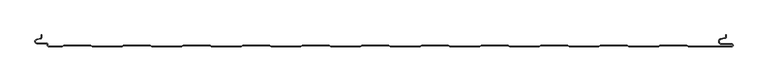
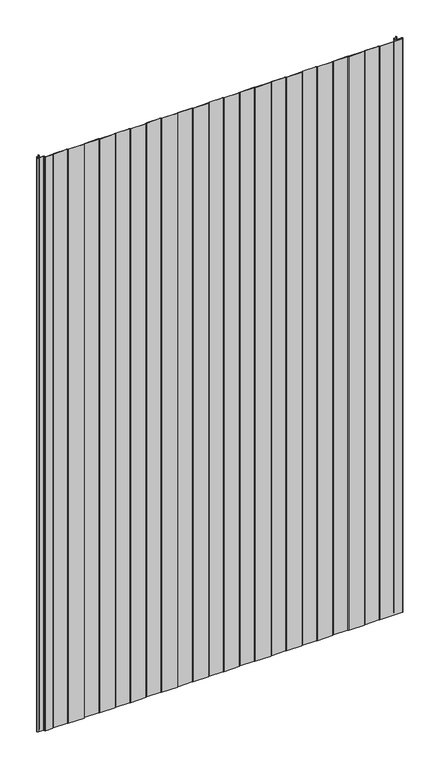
"""IFC4 building model written with IfcOpenShell, lengths in millimetres: plate geometry, PM1_Curtain-Panel_Perfil-Estándar : ACH_PM1_Panel-Acústico-Sectorización_80M."""

import ifcopenshell
import ifcopenshell.guid

model = None  # the IFC model being written
_history = None  # IfcOwnerHistory: only IFC2X3 demands one
_inside = {}  # id of a spatial element -> (the spatial element, [elements in it])
_under = {}  # id of a project, library or spatial element -> (it, [spatial elements below it])
_declared = {}  # id of a project -> (the project, [libraries it declares])
_typed = {}  # id of a type object -> (the type object, [elements of that type])
_made_of = {}  # id of a material, layer set ... -> (it, [elements and type objects made of it])


def new_model(schema):
    """Start an empty IFC model of exactly this schema.

    Asked for "IFC4X3", IfcOpenShell would pick the latest addendum, in which some entities
    have other attributes; the version numbers below select the first issue.
    IFC2X3 requires an IfcOwnerHistory on every rooted entity: one is made here for all.
    """
    global model, _history
    if schema == "IFC4X3":
        model = ifcopenshell.file(schema_version=(4, 3, 0, 0))
    else:
        model = ifcopenshell.file(schema=schema)
    _inside.clear()
    _under.clear()
    _declared.clear()
    _typed.clear()
    _made_of.clear()
    _history = None
    if model.schema == "IFC2X3":
        org = make("IfcOrganization", Name="unknown")
        user = make(
            "IfcPersonAndOrganization",
            ThePerson=make("IfcPerson", FamilyName="unknown"),
            TheOrganization=org,
        )
        app = make(
            "IfcApplication",
            ApplicationDeveloper=org,
            Version="unknown",
            ApplicationFullName="unknown",
            ApplicationIdentifier="unknown",
        )
        _history = make(
            "IfcOwnerHistory",
            OwningUser=user,
            OwningApplication=app,
            ChangeAction="ADDED",
            CreationDate=0,
        )
    return model


def make(cls, **values):
    """One entity of the class cls with the attributes given. An attribute that is None is left unset."""
    return model.create_entity(
        cls, **{name: value for name, value in values.items() if value is not None}
    )


def rooted(cls, **values):
    """An entity with a GlobalId (a new one), such as an element, a storey or a relation."""
    return make(cls, GlobalId=ifcopenshell.guid.new(), OwnerHistory=_history, **values)


def si_unit(unit_type, name, prefix=None):
    """IfcSIUnit, for example si_unit("LENGTHUNIT", "METRE", prefix="MILLI")."""
    return make("IfcSIUnit", UnitType=unit_type, Prefix=prefix, Name=name)


def assignment(units):
    """IfcUnitAssignment: the units of a project."""
    return None if units is None else make("IfcUnitAssignment", Units=units)


def point(xyz):
    """IfcCartesianPoint."""
    return None if xyz is None else make("IfcCartesianPoint", Coordinates=xyz)


def direction(xyz):
    """IfcDirection."""
    return None if xyz is None else make("IfcDirection", DirectionRatios=xyz)


def frame(location, z_axis=None, x_axis=None):
    """IfcAxis2Placement3D, a coordinate frame: its origin and axes. An axis left out is left unset."""
    return make(
        "IfcAxis2Placement3D",
        Location=point(location),
        Axis=direction(z_axis),
        RefDirection=direction(x_axis),
    )


def origin():
    """The frame at (0, 0, 0) with its axes left unset."""
    return frame((0.0, 0.0, 0.0))


def place(relative_to, where):
    """IfcLocalPlacement: puts the frame where relative to a parent placement (None: the world)."""
    return make(
        "IfcLocalPlacement", PlacementRelTo=relative_to, RelativePlacement=where
    )


def context(
    kind, dimensions, precision=None, world=None, true_north=None, identifier=None
):
    """IfcGeometricRepresentationContext, for example the 3D "Model" context."""
    return make(
        "IfcGeometricRepresentationContext",
        ContextIdentifier=identifier,
        ContextType=kind,
        CoordinateSpaceDimension=dimensions,
        Precision=precision,
        WorldCoordinateSystem=world,
        TrueNorth=true_north,
    )


def project(units=None, contexts=None):
    """IfcProject with its units and contexts."""
    return rooted(
        "IfcProject",
        Name="project",
        RepresentationContexts=contexts,
        UnitsInContext=assignment(units),
    )


def spatial(cls, under=None, at=None, **own):
    """A site, building, storey or space (cls), placed at a placement, below another one or the project."""
    s = rooted(cls, ObjectPlacement=at, **own)
    if under is not None:
        _under.setdefault(under.id(), (under, []))[1].append(s)
    return s


def polyline(points):
    """IfcPolyline through the points."""
    return make("IfcPolyline", Points=[point(p) for p in points])


def circle_curve(where, radius):
    """IfcCircle in the frame where."""
    return make("IfcCircle", Position=where, Radius=radius)


def shape(context_of_items, identifier, shape_type, items):
    """IfcShapeRepresentation: the items that make up one representation, for example the "Body"."""
    return make(
        "IfcShapeRepresentation",
        ContextOfItems=context_of_items,
        RepresentationIdentifier=identifier,
        RepresentationType=shape_type,
        Items=items,
    )


def source(mapping_origin, context_of_items, identifier, shape_type, items):
    """IfcRepresentationMap: a shape defined once, which mapped items show again and again."""
    return make(
        "IfcRepresentationMap",
        MappingOrigin=mapping_origin,
        MappedRepresentation=shape(context_of_items, identifier, shape_type, items),
    )


def transform(
    local_origin,
    x_axis=None,
    y_axis=None,
    z_axis=None,
    scale=None,
    scale2=None,
    scale3=None,
    uniform=True,
):
    """IfcCartesianTransformationOperator3D, or its non-uniform kind. x_axis, y_axis, z_axis: its Axis1, 2, 3."""
    if uniform:
        return make(
            "IfcCartesianTransformationOperator3D",
            Axis1=direction(x_axis),
            Axis2=direction(y_axis),
            LocalOrigin=point(local_origin),
            Scale=scale,
            Axis3=direction(z_axis),
        )
    return make(
        "IfcCartesianTransformationOperator3DnonUniform",
        Axis1=direction(x_axis),
        Axis2=direction(y_axis),
        LocalOrigin=point(local_origin),
        Scale=scale,
        Axis3=direction(z_axis),
        Scale2=scale2,
        Scale3=scale3,
    )


def mapped(mapping_source, mapping_target):
    """IfcMappedItem: shows the shape of a source again, moved by a transform."""
    return make(
        "IfcMappedItem", MappingSource=mapping_source, MappingTarget=mapping_target
    )


def made_of(thing, what):
    """Note that an element or type object is made of a material, layer set ...; save() writes the relation."""
    if what is not None:
        _made_of.setdefault(what.id(), (what, []))[1].append(thing)
    return thing


def element(
    cls,
    number,
    at=None,
    inside=None,
    cuts=None,
    type_object=None,
    material=None,
    context=None,
    identifier="Body",
    shape_type=None,
    held_by="IfcProductDefinitionShape",
    body=None,
    shapes=None,
    **own,
):
    """One element of the class cls, such as IfcWall. Its Tag is "e" and its number.

    at: its placement. inside: the storey or other place that contains it. cuts: it is an
    opening in that element (IfcRelVoidsElement). A single representation is given by context,
    identifier, shape_type and body (its items); several are given by shapes. held_by: the class
    of the entity that holds the representations. save() writes the other relations.
    """
    e = rooted(cls, Tag="e%d" % number, ObjectPlacement=at, **own)
    if body is not None:
        shapes = [shape(context, identifier, shape_type, body)]
    if shapes is not None:
        e.Representation = make(held_by, Representations=shapes)
    if inside is not None:
        _inside.setdefault(inside.id(), (inside, []))[1].append(e)
    if cuts is not None:
        rooted(
            "IfcRelVoidsElement", RelatingBuildingElement=cuts, RelatedOpeningElement=e
        )
    if type_object is not None:
        _typed.setdefault(type_object.id(), (type_object, []))[1].append(e)
    return made_of(e, material)


def aggregate(whole, parts):
    """IfcRelAggregates: a whole, such as a stair, and the parts it consists of."""
    return rooted("IfcRelAggregates", RelatingObject=whole, RelatedObjects=parts)


def save(model, path):
    """Write the relations noted so far, then the file.

    IfcRelAggregates (storeys below a building ...), IfcRelContainedInSpatialStructure (elements
    in a storey), IfcRelDefinesByType, IfcRelAssociatesMaterial and IfcRelDeclares: one each for
    every whole, place, type object, material and project.
    """
    for whole, parts in _under.values():
        aggregate(whole, parts)
    for where, things in _inside.values():
        rooted(
            "IfcRelContainedInSpatialStructure",
            RelatedElements=things,
            RelatingStructure=where,
        )
    for kind, things in _typed.values():
        rooted("IfcRelDefinesByType", RelatedObjects=things, RelatingType=kind)
    for what, things in _made_of.values():
        rooted("IfcRelAssociatesMaterial", RelatedObjects=things, RelatingMaterial=what)
    for by, libraries in _declared.values():
        rooted("IfcRelDeclares", RelatingContext=by, RelatedDefinitions=libraries)
    model.write(path)


def plane_surface(at):
    """IfcPlane: the flat surface through the origin of the frame at, square to its z axis."""
    return make("IfcPlane", Position=at)


def cylinder_surface(at, radius):
    """IfcCylindricalSurface: all points at the distance radius from the z axis of the frame at."""
    return make("IfcCylindricalSurface", Position=at, Radius=radius)


def revolved_surface(curve, axis_point, axis_direction):
    """IfcSurfaceOfRevolution: the curve turned about the line through axis_point along axis_direction."""
    return make(
        "IfcSurfaceOfRevolution",
        SweptCurve=make("IfcArbitraryOpenProfileDef", ProfileType="CURVE", Curve=curve),
        AxisPosition=make("IfcAxis1Placement", Location=point(axis_point), Axis=direction(axis_direction)),
    )


def advanced_brep(points, edges, surfaces, faces):
    """IfcAdvancedBrep: a solid bounded by faces that lie on surfaces and meet in shared edges.

    An edge is (start, end): straight between two places in points (the first is 0);
    or (start, end, curve); or (start, end, curve, False) where it runs against its curve.
    A face is (place in surfaces, loops), or (place, loops, False) where it looks against
    its surface's normal. A loop lists edges by number (the first is 1), with a minus sign
    where the edge is run from its end to its start. The first loop is the outer one.
    """
    corners = [point(p) for p in points]
    vertices = [make("IfcVertexPoint", VertexGeometry=c) for c in corners]
    made = []
    for start, end, *more in edges:
        made.append(
            make(
                "IfcEdgeCurve",
                EdgeStart=vertices[start],
                EdgeEnd=vertices[end],
                EdgeGeometry=more[0] if more else make("IfcPolyline", Points=[corners[start], corners[end]]),
                SameSense=more[1] if len(more) > 1 else True,
            )
        )
    hull = []
    for where, loops, *sense in faces:
        bounds = []
        for j, loop in enumerate(loops):
            ring = [make("IfcOrientedEdge", EdgeElement=made[abs(k) - 1], Orientation=k > 0) for k in loop]
            bounds.append(
                make(
                    "IfcFaceOuterBound" if j == 0 else "IfcFaceBound",
                    Bound=make("IfcEdgeLoop", EdgeList=ring),
                    Orientation=True,
                )
            )
        hull.append(make("IfcAdvancedFace", Bounds=bounds, FaceSurface=surfaces[where], SameSense=sense[0] if sense else True))
    return make("IfcAdvancedBrep", Outer=make("IfcClosedShell", CfsFaces=hull))


def plate_d2d6d263(model_context):
    return source(origin(), model_context, "Body", "AdvancedBrep", [
        advanced_brep(
        [(-562.4, -80.0, 1945.7507136), (-539.3999999, -80.0, 1945.7507136), (-536.8019223, -78.5, 1945.7507136), (-492.0019247, -78.5, 1945.7507136), (-489.4038471, -80.0, 1945.7507136), (-439.3999999, -80.0, 1945.7507136), (-436.8019223, -78.5, 1945.7507136), (-392.0019247, -78.5, 1945.7507136), (-389.4038471, -80.0, 1945.7507136), (-339.3999999, -80.0, 1945.7507136), (-336.8019223, -78.5, 1945.7507136), (-292.0019247, -78.5, 1945.7507136), (-289.4038471, -80.0, 1945.7507136), (-239.3999999, -80.0, 1945.7507136), (-236.8019223, -78.5, 1945.7507136), (-192.0019247, -78.5, 1945.7507136), (-189.4038471, -80.0, 1945.7507136), (-139.3999999, -80.0, 1945.7507136), (-136.8019223, -78.5, 1945.7507136), (-92.0019247, -78.5, 1945.7507136), (-89.4038471, -80.0, 1945.7507136), (-39.3999999, -80.0, 1945.7507136), (-36.8019223, -78.5, 1945.7507136), (7.9980753, -78.5, 1945.7507136), (10.5961529, -80.0, 1945.7507136), (60.6000001, -80.0, 1945.7507136), (63.1980777, -78.5, 1945.7507136), (107.9980753, -78.5, 1945.7507136), (110.5961529, -80.0, 1945.7507136), (160.6000001, -80.0, 1945.7507136), (163.1980777, -78.5, 1945.7507136), (207.9980753, -78.5, 1945.7507136), (210.5961529, -80.0, 1945.7507136), (260.6000001, -80.0, 1945.7507136), (263.1980777, -78.5, 1945.7507136), (307.9980753, -78.5, 1945.7507136), (310.5961529, -80.0, 1945.7507136), (360.6000001, -80.0, 1945.7507136), (363.1980777, -78.5, 1945.7507136), (407.9980753, -78.5, 1945.7507136), (410.5961529, -80.0, 1945.7507136), (460.6000001, -80.0, 1945.7507136), (463.1980777, -78.5, 1945.7507136), (507.9980753, -78.5, 1945.7507136), (510.5961529, -80.0, 1945.7507136), (583.1, -80.0, 1945.7507136), (585.6, -77.5, 1945.7507136), (583.1, -75.0, 1945.7507136), (566.1, -75.0, 1945.7507136), (565.4054075, -67.060769, 1945.7507136), (571.8514851, -65.924152, 1945.7507136), (574.0, -63.363652, 1945.7507136), (574.0, -60.0, 1945.7507136), (573.2, -60.0, 1945.7507136), (573.2, -63.363652, 1945.7507136), (571.7125666, -65.136306, 1945.7507136), (565.266489, -66.2729229, 1945.7507136), (566.1, -75.8, 1945.7507136), (583.1, -75.8, 1945.7507136), (583.1, -79.2, 1945.7507136), (510.8105122, -79.2, 1945.7507136), (508.2124346, -77.7, 1945.7507136), (462.9837184, -77.7, 1945.7507136), (460.3856408, -79.2, 1945.7507136), (410.8105122, -79.2, 1945.7507136), (408.2124346, -77.7, 1945.7507136), (362.9837184, -77.7, 1945.7507136), (360.3856408, -79.2, 1945.7507136), (310.8105122, -79.2, 1945.7507136), (308.2124346, -77.7, 1945.7507136), (262.9837184, -77.7, 1945.7507136), (260.3856408, -79.2, 1945.7507136), (210.8105122, -79.2, 1945.7507136), (208.2124346, -77.7, 1945.7507136), (162.9837184, -77.7, 1945.7507136), (160.3856408, -79.2, 1945.7507136), (110.8105122, -79.2, 1945.7507136), (108.2124346, -77.7, 1945.7507136), (62.9837184, -77.7, 1945.7507136), (60.3856408, -79.2, 1945.7507136), (10.8105122, -79.2, 1945.7507136), (8.2124346, -77.7, 1945.7507136), (-37.0162816, -77.7, 1945.7507136), (-39.6143592, -79.2, 1945.7507136), (-89.1894878, -79.2, 1945.7507136), (-91.7875654, -77.7, 1945.7507136), (-137.0162816, -77.7, 1945.7507136), (-139.6143592, -79.2, 1945.7507136), (-189.1894878, -79.2, 1945.7507136), (-191.7875654, -77.7, 1945.7507136), (-237.0162816, -77.7, 1945.7507136), (-239.6143592, -79.2, 1945.7507136), (-289.1894878, -79.2, 1945.7507136), (-291.7875654, -77.7, 1945.7507136), (-337.0162816, -77.7, 1945.7507136), (-339.6143592, -79.2, 1945.7507136), (-389.1894878, -79.2, 1945.7507136), (-391.7875654, -77.7, 1945.7507136), (-437.0162816, -77.7, 1945.7507136), (-439.6143592, -79.2, 1945.7507136), (-489.1894878, -79.2, 1945.7507136), (-491.7875654, -77.7, 1945.7507136), (-537.0162816, -77.7, 1945.7507136), (-539.6143592, -79.2, 1945.7507136), (-562.4, -79.2, 1945.7507136), (-563.6, -78.0, 1945.7507136), (-563.6, -76.6, 1945.7507136), (-566.4, -73.8, 1945.7507136), (-581.9, -73.8, 1945.7507136), (-582.529863, -68.2717638, 1945.7507136), (-576.370137, -66.849679, 1945.7507136), (-574.2, -64.121443, 1945.7507136), (-574.2, -60.0, 1945.7507136), (-575.0, -60.0, 1945.7507136), (-575.0, -64.121443, 1945.7507136), (-576.5500978, -66.0701831, 1945.7507136), (-582.7098239, -67.492268, 1945.7507136), (-581.9, -74.6, 1945.7507136), (-566.4, -74.6, 1945.7507136), (-564.4, -76.6, 1945.7507136), (-564.4, -78.0, 1945.7507136), (-562.4, -80.0, 0.0), (-564.4, -78.0, 0.0), (-564.4, -76.6, 0.0), (-566.4, -74.6, 0.0), (-581.9, -74.6, 0.0), (-582.7098239, -67.4922678, 0.0), (-576.5500979, -66.070183, 0.0), (-575.0, -64.121443, 0.0), (-575.0, -60.0, 0.0), (-574.2, -60.0, 0.0), (-574.2, -64.121443, 0.0), (-576.370137, -66.8496792, 0.0), (-582.529863, -68.271764, 0.0), (-581.9, -73.8, 0.0), (-566.4, -73.8, 0.0), (-563.6, -76.6, 0.0), (-563.6, -78.0, 0.0), (-562.4, -79.2, 0.0), (-539.6143592, -79.2, 0.0), (-537.0162816, -77.7, 0.0), (-491.7875654, -77.7, 0.0), (-489.1894878, -79.2, 0.0), (-439.6143592, -79.2, 0.0), (-437.0162816, -77.7, 0.0), (-391.7875654, -77.7, 0.0), (-389.1894878, -79.2, 0.0), (-339.6143592, -79.2, 0.0), (-337.0162816, -77.7, 0.0), (-291.7875654, -77.7, 0.0), (-289.1894878, -79.2, 0.0), (-239.6143592, -79.2, 0.0), (-237.0162816, -77.7, 0.0), (-191.7875654, -77.7, 0.0), (-189.1894878, -79.2, 0.0), (-139.6143592, -79.2, 0.0), (-137.0162816, -77.7, 0.0), (-91.7875654, -77.7, 0.0), (-89.1894878, -79.2, 0.0), (-39.6143592, -79.2, 0.0), (-37.0162816, -77.7, 0.0), (8.2124346, -77.7, 0.0), (10.8105122, -79.2, 0.0), (60.3856408, -79.2, 0.0), (62.9837184, -77.7, 0.0), (108.2124346, -77.7, 0.0), (110.8105122, -79.2, 0.0), (160.3856408, -79.2, 0.0), (162.9837184, -77.7, 0.0), (208.2124346, -77.7, 0.0), (210.8105122, -79.2, 0.0), (260.3856408, -79.2, 0.0), (262.9837184, -77.7, 0.0), (308.2124346, -77.7, 0.0), (310.8105122, -79.2, 0.0), (360.3856408, -79.2, 0.0), (362.9837184, -77.7, 0.0), (408.2124346, -77.7, 0.0), (410.8105122, -79.2, 0.0), (460.3856408, -79.2, 0.0), (462.9837184, -77.7, 0.0), (508.2124346, -77.7, 0.0), (510.8105122, -79.2, 0.0), (583.1, -79.2, 0.0), (583.1, -75.8, 0.0), (566.1, -75.8, 0.0), (565.266489, -66.2729227, 0.0), (571.7125666, -65.1363058, 0.0), (573.2, -63.363652, 0.0), (573.2, -60.0, 0.0), (574.0, -60.0, 0.0), (574.0, -63.363652, 0.0), (571.8514851, -65.9241522, 0.0), (565.4054075, -67.0607691, 0.0), (566.1, -75.0, 0.0), (583.1, -75.0, 0.0), (585.6, -77.5, 0.0), (583.1, -80.0, 0.0), (510.5961529, -80.0, 0.0), (507.9980753, -78.5, 0.0), (463.1980777, -78.5, 0.0), (460.6000001, -80.0, 0.0), (410.5961529, -80.0, 0.0), (407.9980753, -78.5, 0.0), (363.1980777, -78.5, 0.0), (360.6000001, -80.0, 0.0), (310.5961529, -80.0, 0.0), (307.9980753, -78.5, 0.0), (263.1980777, -78.5, 0.0), (260.6000001, -80.0, 0.0), (210.5961529, -80.0, 0.0), (207.9980753, -78.5, 0.0), (163.1980777, -78.5, 0.0), (160.6000001, -80.0, 0.0), (110.5961529, -80.0, 0.0), (107.9980753, -78.5, 0.0), (63.1980777, -78.5, 0.0), (60.6000001, -80.0, 0.0), (10.5961529, -80.0, 0.0), (7.9980753, -78.5, 0.0), (-36.8019223, -78.5, 0.0), (-39.3999999, -80.0, 0.0), (-89.4038471, -80.0, 0.0), (-92.0019247, -78.5, 0.0), (-136.8019223, -78.5, 0.0), (-139.3999999, -80.0, 0.0), (-189.4038471, -80.0, 0.0), (-192.0019247, -78.5, 0.0), (-236.8019223, -78.5, 0.0), (-239.3999999, -80.0, 0.0), (-289.4038471, -80.0, 0.0), (-292.0019247, -78.5, 0.0), (-336.8019223, -78.5, 0.0), (-339.3999999, -80.0, 0.0), (-389.4038471, -80.0, 0.0), (-392.0019247, -78.5, 0.0), (-436.8019223, -78.5, 0.0), (-439.3999999, -80.0, 0.0), (-489.4038471, -80.0, 0.0), (-492.0019247, -78.5, 0.0), (-536.8019223, -78.5, 0.0), (-539.3999999, -80.0, 0.0)],
        [
            (0, 1),
            (1, 2),
            (2, 3),
            (3, 4),
            (4, 5),
            (5, 6),
            (6, 7),
            (7, 8),
            (8, 9),
            (9, 10),
            (10, 11),
            (11, 12),
            (12, 13),
            (13, 14),
            (14, 15),
            (15, 16),
            (16, 17),
            (17, 18),
            (18, 19),
            (19, 20),
            (20, 21),
            (21, 22),
            (22, 23),
            (23, 24),
            (24, 25),
            (25, 26),
            (26, 27),
            (27, 28),
            (28, 29),
            (29, 30),
            (30, 31),
            (31, 32),
            (32, 33),
            (33, 34),
            (34, 35),
            (35, 36),
            (36, 37),
            (37, 38),
            (38, 39),
            (39, 40),
            (40, 41),
            (41, 42),
            (42, 43),
            (43, 44),
            (44, 45),
            (45, 46, circle_curve(frame((583.1, -77.5, 1945.7507136), z_axis=(0.0, 0.0, 1.0), x_axis=(1.0, 0.0, 0.0)), 2.5)),
            (46, 47, circle_curve(frame((583.1, -77.5, 1945.7507136), z_axis=(0.0, 0.0, 1.0), x_axis=(1.0, 0.0, 0.0)), 2.5)),
            (47, 48),
            (48, 49, circle_curve(frame((566.1, -71.0, 1945.7507136), z_axis=(0.0, 0.0, -1.0), x_axis=(1.0, 0.0, 0.0)), 4.0)),
            (49, 50),
            (50, 51, circle_curve(frame((571.4, -63.363652, 1945.7507136), z_axis=(0.0, 0.0, 1.0), x_axis=(1.0, 0.0, 0.0)), 2.6)),
            (51, 52),
            (52, 53),
            (53, 54),
            (54, 55, circle_curve(frame((571.4, -63.363652, 1945.7507136), z_axis=(0.0, 0.0, -1.0), x_axis=(1.0, 0.0, 0.0)), 1.8)),
            (55, 56),
            (56, 57, circle_curve(frame((566.1, -71.0, 1945.7507136), z_axis=(0.0, 0.0, 1.0), x_axis=(1.0, 0.0, 0.0)), 4.8)),
            (57, 58),
            (58, 59, circle_curve(frame((583.1, -77.5, 1945.7507136), z_axis=(0.0, 0.0, -1.0), x_axis=(1.0, 0.0, 0.0)), 1.7)),
            (59, 60),
            (60, 61),
            (61, 62),
            (62, 63),
            (63, 64),
            (64, 65),
            (65, 66),
            (66, 67),
            (67, 68),
            (68, 69),
            (69, 70),
            (70, 71),
            (71, 72),
            (72, 73),
            (73, 74),
            (74, 75),
            (75, 76),
            (76, 77),
            (77, 78),
            (78, 79),
            (79, 80),
            (80, 81),
            (81, 82),
            (82, 83),
            (83, 84),
            (84, 85),
            (85, 86),
            (86, 87),
            (87, 88),
            (88, 89),
            (89, 90),
            (90, 91),
            (91, 92),
            (92, 93),
            (93, 94),
            (94, 95),
            (95, 96),
            (96, 97),
            (97, 98),
            (98, 99),
            (99, 100),
            (100, 101),
            (101, 102),
            (102, 103),
            (103, 104),
            (104, 105, circle_curve(frame((-562.4, -78.0, 1945.7507136), z_axis=(0.0, 0.0, -1.0), x_axis=(1.0, 0.0, 0.0)), 1.2)),
            (105, 106),
            (106, 107, circle_curve(frame((-566.4, -76.6, 1945.7507136), z_axis=(0.0, 0.0, 1.0), x_axis=(1.0, 0.0, 0.0)), 2.8)),
            (107, 108),
            (108, 109, circle_curve(frame((-581.9, -71.0, 1945.7507136), z_axis=(0.0, 0.0, -1.0), x_axis=(1.0, 0.0, 0.0)), 2.8)),
            (109, 110),
            (110, 111, circle_curve(frame((-577.0, -64.121443, 1945.7507136), z_axis=(0.0, 0.0, 1.0), x_axis=(1.0, 0.0, 0.0)), 2.8)),
            (111, 112),
            (112, 113),
            (113, 114),
            (114, 115, circle_curve(frame((-577.0, -64.121443, 1945.7507136), z_axis=(0.0, 0.0, -1.0), x_axis=(1.0, 0.0, 0.0)), 2.0)),
            (115, 116),
            (116, 117, circle_curve(frame((-581.9, -71.0, 1945.7507136), z_axis=(0.0, 0.0, 1.0), x_axis=(1.0, 0.0, 0.0)), 3.6)),
            (117, 118),
            (118, 119, circle_curve(frame((-566.4, -76.6, 1945.7507136), z_axis=(0.0, 0.0, -1.0), x_axis=(1.0, 0.0, 0.0)), 2.0)),
            (119, 120),
            (120, 0, circle_curve(frame((-562.4, -78.0, 1945.7507136), z_axis=(0.0, 0.0, 1.0), x_axis=(1.0, 0.0, 0.0)), 2.0)),
            (121, 122, circle_curve(frame((-562.4, -78.0, 0.0), z_axis=(0.0, 0.0, -1.0), x_axis=(1.0, 0.0, 0.0)), 2.0)),
            (122, 123),
            (123, 124, circle_curve(frame((-566.4, -76.6, 0.0), z_axis=(0.0, 0.0, 1.0), x_axis=(1.0, 0.0, 0.0)), 2.0)),
            (124, 125),
            (125, 126, circle_curve(frame((-581.9, -71.0, 0.0), z_axis=(0.0, 0.0, -1.0), x_axis=(1.0, 0.0, 0.0)), 3.6)),
            (126, 127),
            (127, 128, circle_curve(frame((-577.0, -64.121443, 0.0), z_axis=(0.0, 0.0, 1.0), x_axis=(1.0, 0.0, 0.0)), 2.0)),
            (128, 129),
            (129, 130),
            (130, 131),
            (131, 132, circle_curve(frame((-577.0, -64.121443, 0.0), z_axis=(0.0, 0.0, -1.0), x_axis=(1.0, 0.0, 0.0)), 2.8)),
            (132, 133),
            (133, 134, circle_curve(frame((-581.9, -71.0, 0.0), z_axis=(0.0, 0.0, 1.0), x_axis=(1.0, 0.0, 0.0)), 2.8)),
            (134, 135),
            (135, 136, circle_curve(frame((-566.4, -76.6, 0.0), z_axis=(0.0, 0.0, -1.0), x_axis=(1.0, 0.0, 0.0)), 2.8)),
            (136, 137),
            (137, 138, circle_curve(frame((-562.4, -78.0, 0.0), z_axis=(0.0, 0.0, 1.0), x_axis=(1.0, 0.0, 0.0)), 1.2)),
            (138, 139),
            (139, 140),
            (140, 141),
            (141, 142),
            (142, 143),
            (143, 144),
            (144, 145),
            (145, 146),
            (146, 147),
            (147, 148),
            (148, 149),
            (149, 150),
            (150, 151),
            (151, 152),
            (152, 153),
            (153, 154),
            (154, 155),
            (155, 156),
            (156, 157),
            (157, 158),
            (158, 159),
            (159, 160),
            (160, 161),
            (161, 162),
            (162, 163),
            (163, 164),
            (164, 165),
            (165, 166),
            (166, 167),
            (167, 168),
            (168, 169),
            (169, 170),
            (170, 171),
            (171, 172),
            (172, 173),
            (173, 174),
            (174, 175),
            (175, 176),
            (176, 177),
            (177, 178),
            (178, 179),
            (179, 180),
            (180, 181),
            (181, 182),
            (182, 183),
            (183, 184, circle_curve(frame((583.1, -77.5, 0.0), z_axis=(0.0, 0.0, 1.0), x_axis=(1.0, 0.0, 0.0)), 1.7)),
            (184, 185),
            (185, 186, circle_curve(frame((566.1, -71.0, 0.0), z_axis=(0.0, 0.0, -1.0), x_axis=(1.0, 0.0, 0.0)), 4.8)),
            (186, 187),
            (187, 188, circle_curve(frame((571.4, -63.363652, 0.0), z_axis=(0.0, 0.0, 1.0), x_axis=(1.0, 0.0, 0.0)), 1.8)),
            (188, 189),
            (189, 190),
            (190, 191),
            (191, 192, circle_curve(frame((571.4, -63.363652, 0.0), z_axis=(0.0, 0.0, -1.0), x_axis=(1.0, 0.0, 0.0)), 2.6)),
            (192, 193),
            (193, 194, circle_curve(frame((566.1, -71.0, 0.0), z_axis=(0.0, 0.0, 1.0), x_axis=(1.0, 0.0, 0.0)), 4.0)),
            (194, 195),
            (195, 196, circle_curve(frame((583.1, -77.5, 0.0), z_axis=(0.0, 0.0, -1.0), x_axis=(1.0, 0.0, 0.0)), 2.5)),
            (196, 197, circle_curve(frame((583.1, -77.5, 0.0), z_axis=(0.0, 0.0, -1.0), x_axis=(1.0, 0.0, 0.0)), 2.5)),
            (197, 198),
            (198, 199),
            (199, 200),
            (200, 201),
            (201, 202),
            (202, 203),
            (203, 204),
            (204, 205),
            (205, 206),
            (206, 207),
            (207, 208),
            (208, 209),
            (209, 210),
            (210, 211),
            (211, 212),
            (212, 213),
            (213, 214),
            (214, 215),
            (215, 216),
            (216, 217),
            (217, 218),
            (218, 219),
            (219, 220),
            (220, 221),
            (221, 222),
            (222, 223),
            (223, 224),
            (224, 225),
            (225, 226),
            (226, 227),
            (227, 228),
            (228, 229),
            (229, 230),
            (230, 231),
            (231, 232),
            (232, 233),
            (233, 234),
            (234, 235),
            (235, 236),
            (236, 237),
            (237, 238),
            (238, 239),
            (239, 240),
            (240, 241),
            (241, 121),
            (0, 121),
            (241, 1),
            (240, 2),
            (239, 3),
            (238, 4),
            (237, 5),
            (236, 6),
            (235, 7),
            (234, 8),
            (233, 9),
            (232, 10),
            (231, 11),
            (230, 12),
            (229, 13),
            (228, 14),
            (227, 15),
            (226, 16),
            (225, 17),
            (224, 18),
            (223, 19),
            (222, 20),
            (221, 21),
            (220, 22),
            (219, 23),
            (218, 24),
            (217, 25),
            (216, 26),
            (215, 27),
            (214, 28),
            (213, 29),
            (212, 30),
            (211, 31),
            (210, 32),
            (209, 33),
            (208, 34),
            (207, 35),
            (206, 36),
            (205, 37),
            (204, 38),
            (203, 39),
            (202, 40),
            (201, 41),
            (200, 42),
            (199, 43),
            (198, 44),
            (197, 45),
            (195, 47),
            (194, 48),
            (193, 49),
            (192, 50),
            (191, 51),
            (190, 52),
            (189, 53),
            (188, 54),
            (187, 55),
            (186, 56),
            (185, 57),
            (184, 58),
            (183, 59),
            (182, 60),
            (181, 61),
            (180, 62),
            (179, 63),
            (178, 64),
            (177, 65),
            (176, 66),
            (175, 67),
            (174, 68),
            (173, 69),
            (172, 70),
            (171, 71),
            (170, 72),
            (169, 73),
            (168, 74),
            (167, 75),
            (166, 76),
            (165, 77),
            (164, 78),
            (163, 79),
            (162, 80),
            (161, 81),
            (160, 82),
            (159, 83),
            (158, 84),
            (157, 85),
            (156, 86),
            (155, 87),
            (154, 88),
            (153, 89),
            (152, 90),
            (151, 91),
            (150, 92),
            (149, 93),
            (148, 94),
            (147, 95),
            (146, 96),
            (145, 97),
            (144, 98),
            (143, 99),
            (142, 100),
            (141, 101),
            (140, 102),
            (139, 103),
            (138, 104),
            (137, 105),
            (136, 106),
            (135, 107),
            (134, 108),
            (133, 109),
            (132, 110),
            (131, 111),
            (130, 112),
            (129, 113),
            (128, 114),
            (127, 115),
            (126, 116),
            (125, 117),
            (124, 118),
            (123, 119),
            (122, 120),
        ],
        [
            plane_surface(frame((-575.0, -80.0, 1945.7507136), z_axis=(0.0, 0.0, 1.0), x_axis=(0.0, 1.0, 0.0))),
            plane_surface(frame((-575.0, -80.0, 0.0), z_axis=(0.0, 0.0, -1.0), x_axis=(0.0, 1.0, 0.0))),
            plane_surface(frame((-562.4, -80.0, 1945.7507136), z_axis=(0.0, -1.0, 0.0), x_axis=(0.0, 0.0, -1.0))),
            plane_surface(frame((-539.3999999, -80.0, 1945.7507136), z_axis=(0.49999979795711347, -0.8660255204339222, 0.0), x_axis=(0.0, 0.0, -1.0))),
            plane_surface(frame((-536.8019223, -78.5, 1945.7507136), z_axis=(0.0, -1.0, 0.0), x_axis=(0.0, 0.0, -1.0))),
            plane_surface(frame((-492.0019247, -78.5, 1945.7507136), z_axis=(-0.49999979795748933, -0.8660255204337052, 0.0), x_axis=(0.0, 0.0, -1.0))),
            plane_surface(frame((-489.4038471, -80.0, 1945.7507136), z_axis=(0.0, -1.0, 0.0), x_axis=(0.0, 0.0, -1.0))),
            plane_surface(frame((-439.3999999, -80.0, 1945.7507136), z_axis=(0.49999979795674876, -0.8660255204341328, 0.0), x_axis=(0.0, 0.0, -1.0))),
            plane_surface(frame((-436.8019223, -78.5, 1945.7507136), z_axis=(0.0, -1.0, 0.0), x_axis=(0.0, 0.0, -1.0))),
            plane_surface(frame((-392.0019247, -78.5, 1945.7507136), z_axis=(-0.4999997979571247, -0.8660255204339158, 0.0), x_axis=(0.0, 0.0, -1.0))),
            plane_surface(frame((-389.4038471, -80.0, 1945.7507136), z_axis=(0.0, -1.0, 0.0), x_axis=(0.0, 0.0, -1.0))),
            plane_surface(frame((-339.3999999, -80.0, 1945.7507136), z_axis=(0.49999979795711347, -0.8660255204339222, 0.0), x_axis=(0.0, 0.0, -1.0))),
            plane_surface(frame((-336.8019223, -78.5, 1945.7507136), z_axis=(0.0, -1.0, 0.0), x_axis=(0.0, 0.0, -1.0))),
            plane_surface(frame((-292.0019247, -78.5, 1945.7507136), z_axis=(-0.4999997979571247, -0.8660255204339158, 0.0), x_axis=(0.0, 0.0, -1.0))),
            plane_surface(frame((-289.4038471, -80.0, 1945.7507136), z_axis=(0.0, -1.0, 0.0), x_axis=(0.0, 0.0, -1.0))),
            plane_surface(frame((-239.3999999, -80.0, 1945.7507136), z_axis=(0.49999979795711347, -0.8660255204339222, 0.0), x_axis=(0.0, 0.0, -1.0))),
            plane_surface(frame((-236.8019223, -78.5, 1945.7507136), z_axis=(0.0, -1.0, 0.0), x_axis=(0.0, 0.0, -1.0))),
            plane_surface(frame((-192.0019247, -78.5, 1945.7507136), z_axis=(-0.49999979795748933, -0.8660255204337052, 0.0), x_axis=(0.0, 0.0, -1.0))),
            plane_surface(frame((-189.4038471, -80.0, 1945.7507136), z_axis=(0.0, -1.0, 0.0), x_axis=(0.0, 0.0, -1.0))),
            plane_surface(frame((-139.3999999, -80.0, 1945.7507136), z_axis=(0.49999979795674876, -0.8660255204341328, 0.0), x_axis=(0.0, 0.0, -1.0))),
            plane_surface(frame((-136.8019223, -78.5, 1945.7507136), z_axis=(0.0, -1.0, 0.0), x_axis=(0.0, 0.0, -1.0))),
            plane_surface(frame((-92.0019247, -78.5, 1945.7507136), z_axis=(-0.4999997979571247, -0.8660255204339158, 0.0), x_axis=(0.0, 0.0, -1.0))),
            plane_surface(frame((-89.4038471, -80.0, 1945.7507136), z_axis=(0.0, -1.0, 0.0), x_axis=(0.0, 0.0, -1.0))),
            plane_surface(frame((-39.3999999, -80.0, 1945.7507136), z_axis=(0.49999979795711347, -0.8660255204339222, 0.0), x_axis=(0.0, 0.0, -1.0))),
            plane_surface(frame((-36.8019223, -78.5, 1945.7507136), z_axis=(0.0, -1.0, 0.0), x_axis=(0.0, 0.0, -1.0))),
            plane_surface(frame((7.9980753, -78.5, 1945.7507136), z_axis=(-0.4999997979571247, -0.8660255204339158, 0.0), x_axis=(0.0, 0.0, -1.0))),
            plane_surface(frame((10.5961529, -80.0, 1945.7507136), z_axis=(0.0, -1.0, 0.0), x_axis=(0.0, 0.0, -1.0))),
            plane_surface(frame((60.6000001, -80.0, 1945.7507136), z_axis=(0.49999979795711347, -0.8660255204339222, 0.0), x_axis=(0.0, 0.0, -1.0))),
            plane_surface(frame((63.1980777, -78.5, 1945.7507136), z_axis=(0.0, -1.0, 0.0), x_axis=(0.0, 0.0, -1.0))),
            plane_surface(frame((107.9980753, -78.5, 1945.7507136), z_axis=(-0.49999979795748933, -0.8660255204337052, 0.0), x_axis=(0.0, 0.0, -1.0))),
            plane_surface(frame((110.5961529, -80.0, 1945.7507136), z_axis=(0.0, -1.0, 0.0), x_axis=(0.0, 0.0, -1.0))),
            plane_surface(frame((160.6000001, -80.0, 1945.7507136), z_axis=(0.49999979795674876, -0.8660255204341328, 0.0), x_axis=(0.0, 0.0, -1.0))),
            plane_surface(frame((163.1980777, -78.5, 1945.7507136), z_axis=(0.0, -1.0, 0.0), x_axis=(0.0, 0.0, -1.0))),
            plane_surface(frame((207.9980753, -78.5, 1945.7507136), z_axis=(-0.4999997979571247, -0.8660255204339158, 0.0), x_axis=(0.0, 0.0, -1.0))),
            plane_surface(frame((210.5961529, -80.0, 1945.7507136), z_axis=(0.0, -1.0, 0.0), x_axis=(0.0, 0.0, -1.0))),
            plane_surface(frame((260.6000001, -80.0, 1945.7507136), z_axis=(0.49999979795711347, -0.8660255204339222, 0.0), x_axis=(0.0, 0.0, -1.0))),
            plane_surface(frame((263.1980777, -78.5, 1945.7507136), z_axis=(0.0, -1.0, 0.0), x_axis=(0.0, 0.0, -1.0))),
            plane_surface(frame((307.9980753, -78.5, 1945.7507136), z_axis=(-0.4999997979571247, -0.8660255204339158, 0.0), x_axis=(0.0, 0.0, -1.0))),
            plane_surface(frame((310.5961529, -80.0, 1945.7507136), z_axis=(0.0, -1.0, 0.0), x_axis=(0.0, 0.0, -1.0))),
            plane_surface(frame((360.6000001, -80.0, 1945.7507136), z_axis=(0.49999979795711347, -0.8660255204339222, 0.0), x_axis=(0.0, 0.0, -1.0))),
            plane_surface(frame((363.1980777, -78.5, 1945.7507136), z_axis=(0.0, -1.0, 0.0), x_axis=(0.0, 0.0, -1.0))),
            plane_surface(frame((407.9980753, -78.5, 1945.7507136), z_axis=(-0.49999979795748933, -0.8660255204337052, 0.0), x_axis=(0.0, 0.0, -1.0))),
            plane_surface(frame((410.5961529, -80.0, 1945.7507136), z_axis=(0.0, -1.0, 0.0), x_axis=(0.0, 0.0, -1.0))),
            plane_surface(frame((460.6000001, -80.0, 1945.7507136), z_axis=(0.49999979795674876, -0.8660255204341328, 0.0), x_axis=(0.0, 0.0, -1.0))),
            plane_surface(frame((463.1980777, -78.5, 1945.7507136), z_axis=(0.0, -1.0, 0.0), x_axis=(0.0, 0.0, -1.0))),
            plane_surface(frame((507.9980753, -78.5, 1945.7507136), z_axis=(-0.4999997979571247, -0.8660255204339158, 0.0), x_axis=(0.0, 0.0, -1.0))),
            plane_surface(frame((560.890897, -80.0, 1945.7507136), z_axis=(0.0, -1.0, 0.0), x_axis=(0.0, 0.0, -1.0))),
            cylinder_surface(frame((583.1, -77.5, 1945.7507136), z_axis=(0.0, 0.0, 1.0), x_axis=(1.0, 0.0, 0.0)), 2.5),
            plane_surface(frame((583.1, -75.0, 1945.7507136), z_axis=(0.0, 1.0, 0.0), x_axis=(0.0, 0.0, -1.0))),
            revolved_surface(polyline([(570.1, -71.0, 0.0), (570.1, -71.0, 1945.7507136)]), (566.1, -71.0, 1945.7507136), (0.0, 0.0, -1.0)),
            plane_surface(frame((565.4054075, -67.0607691, 1945.7507136), z_axis=(0.17364813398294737, -0.9848077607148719, 0.0), x_axis=(0.0, 0.0, -1.0))),
            cylinder_surface(frame((571.4, -63.363652, 1945.7507136), z_axis=(0.0, 0.0, 1.0), x_axis=(1.0, 0.0, 0.0)), 2.6),
            plane_surface(frame((574.0, -63.363652, 1945.7507136), z_axis=(1.0, 0.0, 0.0), x_axis=(0.0, 0.0, -1.0))),
            plane_surface(frame((574.0, -60.0, 1945.7507136), z_axis=(0.0, 1.0, 0.0), x_axis=(0.0, 0.0, -1.0))),
            plane_surface(frame((573.2, -60.0, 1945.7507136), z_axis=(-1.0, 0.0, 0.0), x_axis=(0.0, 0.0, -1.0))),
            revolved_surface(polyline([(573.1999999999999, -63.363652, 0.0), (573.1999999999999, -63.363652, 1945.7507136)]), (571.4, -63.363652, 1945.7507136), (0.0, 0.0, -1.0)),
            plane_surface(frame((571.7125666, -65.1363058, 1945.7507136), z_axis=(-0.17364813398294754, 0.9848077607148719, 0.0), x_axis=(0.0, 0.0, -1.0))),
            cylinder_surface(frame((566.1, -71.0, 1945.7507136), z_axis=(0.0, 0.0, 1.0), x_axis=(1.0, 0.0, 0.0)), 4.8),
            plane_surface(frame((566.1, -75.8, 1945.7507136), z_axis=(0.0, -1.0, 0.0), x_axis=(0.0, 0.0, -1.0))),
            revolved_surface(polyline([(584.8000000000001, -77.5, 0.0), (584.8000000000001, -77.5, 1945.7507136)]), (583.1, -77.5, 1945.7507136), (0.0, 0.0, -1.0)),
            plane_surface(frame((560.890897, -79.2, 1945.7507136), z_axis=(0.0, 1.0, 0.0), x_axis=(0.0, 0.0, -1.0))),
            plane_surface(frame((510.8105122, -79.2, 1945.7507136), z_axis=(0.49999979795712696, 0.8660255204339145, 0.0), x_axis=(0.0, 0.0, -1.0))),
            plane_surface(frame((508.2124346, -77.7, 1945.7507136), z_axis=(0.0, 1.0, 0.0), x_axis=(0.0, 0.0, -1.0))),
            plane_surface(frame((462.9837184, -77.7, 1945.7507136), z_axis=(-0.4999997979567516, 0.8660255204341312, 0.0), x_axis=(0.0, 0.0, -1.0))),
            plane_surface(frame((460.3856408, -79.2, 1945.7507136), z_axis=(0.0, 1.0, 0.0), x_axis=(0.0, 0.0, -1.0))),
            plane_surface(frame((410.8105122, -79.2, 1945.7507136), z_axis=(0.4999997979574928, 0.8660255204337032, 0.0), x_axis=(0.0, 0.0, -1.0))),
            plane_surface(frame((408.2124346, -77.7, 1945.7507136), z_axis=(0.0, 1.0, 0.0), x_axis=(0.0, 0.0, -1.0))),
            plane_surface(frame((362.9837184, -77.7, 1945.7507136), z_axis=(-0.49999979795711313, 0.8660255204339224, 0.0), x_axis=(0.0, 0.0, -1.0))),
            plane_surface(frame((360.3856408, -79.2, 1945.7507136), z_axis=(0.0, 1.0, 0.0), x_axis=(0.0, 0.0, -1.0))),
            plane_surface(frame((310.8105122, -79.2, 1945.7507136), z_axis=(0.4999997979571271, 0.8660255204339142, 0.0), x_axis=(0.0, 0.0, -1.0))),
            plane_surface(frame((308.2124346, -77.7, 1945.7507136), z_axis=(0.0, 1.0, 0.0), x_axis=(0.0, 0.0, -1.0))),
            plane_surface(frame((262.9837184, -77.7, 1945.7507136), z_axis=(-0.49999979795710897, 0.8660255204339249, 0.0), x_axis=(0.0, 0.0, -1.0))),
            plane_surface(frame((260.3856408, -79.2, 1945.7507136), z_axis=(0.0, 1.0, 0.0), x_axis=(0.0, 0.0, -1.0))),
            plane_surface(frame((210.8105122, -79.2, 1945.7507136), z_axis=(0.4999997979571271, 0.8660255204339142, 0.0), x_axis=(0.0, 0.0, -1.0))),
            plane_surface(frame((208.2124346, -77.7, 1945.7507136), z_axis=(0.0, 1.0, 0.0), x_axis=(0.0, 0.0, -1.0))),
            plane_surface(frame((162.9837184, -77.7, 1945.7507136), z_axis=(-0.4999997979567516, 0.8660255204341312, 0.0), x_axis=(0.0, 0.0, -1.0))),
            plane_surface(frame((160.3856408, -79.2, 1945.7507136), z_axis=(0.0, 1.0, 0.0), x_axis=(0.0, 0.0, -1.0))),
            plane_surface(frame((110.8105122, -79.2, 1945.7507136), z_axis=(0.49999979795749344, 0.8660255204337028, 0.0), x_axis=(0.0, 0.0, -1.0))),
            plane_surface(frame((108.2124346, -77.7, 1945.7507136), z_axis=(0.0, 1.0, 0.0), x_axis=(0.0, 0.0, -1.0))),
            plane_surface(frame((62.9837184, -77.7, 1945.7507136), z_axis=(-0.49999979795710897, 0.8660255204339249, 0.0), x_axis=(0.0, 0.0, -1.0))),
            plane_surface(frame((60.3856408, -79.2, 1945.7507136), z_axis=(0.0, 1.0, 0.0), x_axis=(0.0, 0.0, -1.0))),
            plane_surface(frame((10.8105122, -79.2, 1945.7507136), z_axis=(0.4999997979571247, 0.8660255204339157, 0.0), x_axis=(0.0, 0.0, -1.0))),
            plane_surface(frame((8.2124346, -77.7, 1945.7507136), z_axis=(0.0, 1.0, 0.0), x_axis=(0.0, 0.0, -1.0))),
            plane_surface(frame((-37.0162816, -77.7, 1945.7507136), z_axis=(-0.49999979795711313, 0.8660255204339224, 0.0), x_axis=(0.0, 0.0, -1.0))),
            plane_surface(frame((-39.6143592, -79.2, 1945.7507136), z_axis=(0.0, 1.0, 0.0), x_axis=(0.0, 0.0, -1.0))),
            plane_surface(frame((-89.1894878, -79.2, 1945.7507136), z_axis=(0.4999997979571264, 0.8660255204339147, 0.0), x_axis=(0.0, 0.0, -1.0))),
            plane_surface(frame((-91.7875654, -77.7, 1945.7507136), z_axis=(0.0, 1.0, 0.0), x_axis=(0.0, 0.0, -1.0))),
            plane_surface(frame((-137.0162816, -77.7, 1945.7507136), z_axis=(-0.49999979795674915, 0.8660255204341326, 0.0), x_axis=(0.0, 0.0, -1.0))),
            plane_surface(frame((-139.6143592, -79.2, 1945.7507136), z_axis=(0.0, 1.0, 0.0), x_axis=(0.0, 0.0, -1.0))),
            plane_surface(frame((-189.1894878, -79.2, 1945.7507136), z_axis=(0.49999979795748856, 0.8660255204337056, 0.0), x_axis=(0.0, 0.0, -1.0))),
            plane_surface(frame((-191.7875654, -77.7, 1945.7507136), z_axis=(0.0, 1.0, 0.0), x_axis=(0.0, 0.0, -1.0))),
            plane_surface(frame((-237.0162816, -77.7, 1945.7507136), z_axis=(-0.4999997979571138, 0.866025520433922, 0.0), x_axis=(0.0, 0.0, -1.0))),
            plane_surface(frame((-239.6143592, -79.2, 1945.7507136), z_axis=(0.0, 1.0, 0.0), x_axis=(0.0, 0.0, -1.0))),
            plane_surface(frame((-289.1894878, -79.2, 1945.7507136), z_axis=(0.49999979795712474, 0.8660255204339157, 0.0), x_axis=(0.0, 0.0, -1.0))),
            plane_surface(frame((-291.7875654, -77.7, 1945.7507136), z_axis=(0.0, 1.0, 0.0), x_axis=(0.0, 0.0, -1.0))),
            plane_surface(frame((-337.0162816, -77.7, 1945.7507136), z_axis=(-0.49999979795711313, 0.8660255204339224, 0.0), x_axis=(0.0, 0.0, -1.0))),
            plane_surface(frame((-339.6143592, -79.2, 1945.7507136), z_axis=(0.0, 1.0, 0.0), x_axis=(0.0, 0.0, -1.0))),
            plane_surface(frame((-389.1894878, -79.2, 1945.7507136), z_axis=(0.49999979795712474, 0.8660255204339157, 0.0), x_axis=(0.0, 0.0, -1.0))),
            plane_surface(frame((-391.7875654, -77.7, 1945.7507136), z_axis=(0.0, 1.0, 0.0), x_axis=(0.0, 0.0, -1.0))),
            plane_surface(frame((-437.0162816, -77.7, 1945.7507136), z_axis=(-0.49999979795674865, 0.8660255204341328, 0.0), x_axis=(0.0, 0.0, -1.0))),
            plane_surface(frame((-439.6143592, -79.2, 1945.7507136), z_axis=(0.0, 1.0, 0.0), x_axis=(0.0, 0.0, -1.0))),
            plane_surface(frame((-489.1894878, -79.2, 1945.7507136), z_axis=(0.49999979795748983, 0.866025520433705, 0.0), x_axis=(0.0, 0.0, -1.0))),
            plane_surface(frame((-491.7875654, -77.7, 1945.7507136), z_axis=(0.0, 1.0, 0.0), x_axis=(0.0, 0.0, -1.0))),
            plane_surface(frame((-537.0162816, -77.7, 1945.7507136), z_axis=(-0.49999979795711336, 0.8660255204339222, 0.0), x_axis=(0.0, 0.0, -1.0))),
            plane_surface(frame((-539.6143592, -79.2, 1945.7507136), z_axis=(0.0, 1.0, 0.0), x_axis=(0.0, 0.0, -1.0))),
            revolved_surface(polyline([(-561.1999999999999, -78.0, 0.0), (-561.1999999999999, -78.0, 1945.7507136)]), (-562.4, -78.0, 1945.7507136), (0.0, 0.0, -1.0)),
            plane_surface(frame((-563.6, -78.0, 1945.7507136), z_axis=(1.0, 0.0, 0.0), x_axis=(0.0, 0.0, -1.0))),
            cylinder_surface(frame((-566.4, -76.6, 1945.7507136), z_axis=(0.0, 0.0, 1.0), x_axis=(1.0, 0.0, 0.0)), 2.8),
            plane_surface(frame((-566.4, -73.8, 1945.7507136), z_axis=(0.0, 1.0, 0.0), x_axis=(0.0, 0.0, -1.0))),
            revolved_surface(polyline([(-579.1, -71.0, 0.0), (-579.1, -71.0, 1945.7507136)]), (-581.9, -71.0, 1945.7507136), (0.0, 0.0, -1.0)),
            plane_surface(frame((-582.529863, -68.271764, 1945.7507136), z_axis=(0.2249510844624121, -0.9743700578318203, 0.0), x_axis=(0.0, 0.0, -1.0))),
            cylinder_surface(frame((-577.0, -64.121443, 1945.7507136), z_axis=(0.0, 0.0, 1.0), x_axis=(1.0, 0.0, 0.0)), 2.8),
            plane_surface(frame((-574.2, -64.121443, 1945.7507136), z_axis=(1.0, 0.0, 0.0), x_axis=(0.0, 0.0, -1.0))),
            plane_surface(frame((-574.2, -60.0, 1945.7507136), z_axis=(0.0, 1.0, 0.0), x_axis=(0.0, 0.0, -1.0))),
            plane_surface(frame((-575.0, -60.0, 1945.7507136), z_axis=(-1.0, 0.0, 0.0), x_axis=(0.0, 0.0, -1.0))),
            revolved_surface(polyline([(-575.0, -64.121443, 0.0), (-575.0, -64.121443, 1945.7507136)]), (-577.0, -64.121443, 1945.7507136), (0.0, 0.0, -1.0)),
            plane_surface(frame((-576.5500979, -66.070183, 1945.7507136), z_axis=(-0.22495108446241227, 0.9743700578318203, 0.0), x_axis=(0.0, 0.0, -1.0))),
            cylinder_surface(frame((-581.9, -71.0, 1945.7507136), z_axis=(0.0, 0.0, 1.0), x_axis=(1.0, 0.0, 0.0)), 3.6),
            plane_surface(frame((-581.9, -74.6, 1945.7507136), z_axis=(0.0, -1.0, 0.0), x_axis=(0.0, 0.0, -1.0))),
            revolved_surface(polyline([(-564.4, -76.6, 0.0), (-564.4, -76.6, 1945.7507136)]), (-566.4, -76.6, 1945.7507136), (0.0, 0.0, -1.0)),
            plane_surface(frame((-564.4, -76.6, 1945.7507136), z_axis=(-1.0, 0.0, 0.0), x_axis=(0.0, 0.0, -1.0))),
            cylinder_surface(frame((-562.4, -78.0, 1945.7507136), z_axis=(0.0, 0.0, 1.0), x_axis=(1.0, 0.0, 0.0)), 2.0),
        ],
        [
            (0, [[1, 2, 3, 4, 5, 6, 7, 8, 9, 10, 11, 12, 13, 14, 15, 16, 17, 18, 19, 20, 21, 22, 23, 24, 25, 26, 27, 28, 29, 30, 31, 32, 33, 34, 35, 36, 37, 38, 39, 40, 41, 42, 43, 44, 45, 46, 47, 48, 49, 50, 51, 52, 53, 54, 55, 56, 57, 58, 59, 60, 61, 62, 63, 64, 65, 66, 67, 68, 69, 70, 71, 72, 73, 74, 75, 76, 77, 78, 79, 80, 81, 82, 83, 84, 85, 86, 87, 88, 89, 90, 91, 92, 93, 94, 95, 96, 97, 98, 99, 100, 101, 102, 103, 104, 105, 106, 107, 108, 109, 110, 111, 112, 113, 114, 115, 116, 117, 118, 119, 120, 121]]),
            (1, [[122, 123, 124, 125, 126, 127, 128, 129, 130, 131, 132, 133, 134, 135, 136, 137, 138, 139, 140, 141, 142, 143, 144, 145, 146, 147, 148, 149, 150, 151, 152, 153, 154, 155, 156, 157, 158, 159, 160, 161, 162, 163, 164, 165, 166, 167, 168, 169, 170, 171, 172, 173, 174, 175, 176, 177, 178, 179, 180, 181, 182, 183, 184, 185, 186, 187, 188, 189, 190, 191, 192, 193, 194, 195, 196, 197, 198, 199, 200, 201, 202, 203, 204, 205, 206, 207, 208, 209, 210, 211, 212, 213, 214, 215, 216, 217, 218, 219, 220, 221, 222, 223, 224, 225, 226, 227, 228, 229, 230, 231, 232, 233, 234, 235, 236, 237, 238, 239, 240, 241, 242]]),
            (2, [[-1, 243, -242, 244]]),
            (3, [[-2, -244, -241, 245]]),
            (4, [[-3, -245, -240, 246]]),
            (5, [[-4, -246, -239, 247]]),
            (6, [[-5, -247, -238, 248]]),
            (7, [[-6, -248, -237, 249]]),
            (8, [[-7, -249, -236, 250]]),
            (9, [[-8, -250, -235, 251]]),
            (10, [[-9, -251, -234, 252]]),
            (11, [[-10, -252, -233, 253]]),
            (12, [[-11, -253, -232, 254]]),
            (13, [[-12, -254, -231, 255]]),
            (14, [[-13, -255, -230, 256]]),
            (15, [[-14, -256, -229, 257]]),
            (16, [[-15, -257, -228, 258]]),
            (17, [[-16, -258, -227, 259]]),
            (18, [[-17, -259, -226, 260]]),
            (19, [[-18, -260, -225, 261]]),
            (20, [[-19, -261, -224, 262]]),
            (21, [[-20, -262, -223, 263]]),
            (22, [[-21, -263, -222, 264]]),
            (23, [[-22, -264, -221, 265]]),
            (24, [[-23, -265, -220, 266]]),
            (25, [[-24, -266, -219, 267]]),
            (26, [[-25, -267, -218, 268]]),
            (27, [[-26, -268, -217, 269]]),
            (28, [[-27, -269, -216, 270]]),
            (29, [[-28, -270, -215, 271]]),
            (30, [[-29, -271, -214, 272]]),
            (31, [[-30, -272, -213, 273]]),
            (32, [[-31, -273, -212, 274]]),
            (33, [[-32, -274, -211, 275]]),
            (34, [[-33, -275, -210, 276]]),
            (35, [[-34, -276, -209, 277]]),
            (36, [[-35, -277, -208, 278]]),
            (37, [[-36, -278, -207, 279]]),
            (38, [[-37, -279, -206, 280]]),
            (39, [[-38, -280, -205, 281]]),
            (40, [[-39, -281, -204, 282]]),
            (41, [[-40, -282, -203, 283]]),
            (42, [[-41, -283, -202, 284]]),
            (43, [[-42, -284, -201, 285]]),
            (44, [[-43, -285, -200, 286]]),
            (45, [[-44, -286, -199, 287]]),
            (46, [[-45, -287, -198, 288]]),
            (47, [[-288, -197, -196, 289, -47, -46]]),
            (48, [[-48, -289, -195, 290]]),
            (49, [[-49, -290, -194, 291]]),
            (50, [[-50, -291, -193, 292]]),
            (51, [[-51, -292, -192, 293]]),
            (52, [[-52, -293, -191, 294]]),
            (53, [[-53, -294, -190, 295]]),
            (54, [[-54, -295, -189, 296]]),
            (55, [[-55, -296, -188, 297]]),
            (56, [[-56, -297, -187, 298]]),
            (57, [[-57, -298, -186, 299]]),
            (58, [[-58, -299, -185, 300]]),
            (59, [[-59, -300, -184, 301]]),
            (60, [[-60, -301, -183, 302]]),
            (61, [[-61, -302, -182, 303]]),
            (62, [[-62, -303, -181, 304]]),
            (63, [[-63, -304, -180, 305]]),
            (64, [[-64, -305, -179, 306]]),
            (65, [[-65, -306, -178, 307]]),
            (66, [[-66, -307, -177, 308]]),
            (67, [[-67, -308, -176, 309]]),
            (68, [[-68, -309, -175, 310]]),
            (69, [[-69, -310, -174, 311]]),
            (70, [[-70, -311, -173, 312]]),
            (71, [[-71, -312, -172, 313]]),
            (72, [[-72, -313, -171, 314]]),
            (73, [[-73, -314, -170, 315]]),
            (74, [[-74, -315, -169, 316]]),
            (75, [[-75, -316, -168, 317]]),
            (76, [[-76, -317, -167, 318]]),
            (77, [[-77, -318, -166, 319]]),
            (78, [[-78, -319, -165, 320]]),
            (79, [[-79, -320, -164, 321]]),
            (80, [[-80, -321, -163, 322]]),
            (81, [[-81, -322, -162, 323]]),
            (82, [[-82, -323, -161, 324]]),
            (83, [[-83, -324, -160, 325]]),
            (84, [[-84, -325, -159, 326]]),
            (85, [[-85, -326, -158, 327]]),
            (86, [[-86, -327, -157, 328]]),
            (87, [[-87, -328, -156, 329]]),
            (88, [[-88, -329, -155, 330]]),
            (89, [[-89, -330, -154, 331]]),
            (90, [[-90, -331, -153, 332]]),
            (91, [[-91, -332, -152, 333]]),
            (92, [[-92, -333, -151, 334]]),
            (93, [[-93, -334, -150, 335]]),
            (94, [[-94, -335, -149, 336]]),
            (95, [[-95, -336, -148, 337]]),
            (96, [[-96, -337, -147, 338]]),
            (97, [[-97, -338, -146, 339]]),
            (98, [[-98, -339, -145, 340]]),
            (99, [[-99, -340, -144, 341]]),
            (100, [[-100, -341, -143, 342]]),
            (101, [[-101, -342, -142, 343]]),
            (102, [[-102, -343, -141, 344]]),
            (103, [[-103, -344, -140, 345]]),
            (104, [[-104, -345, -139, 346]]),
            (105, [[-105, -346, -138, 347]]),
            (106, [[-106, -347, -137, 348]]),
            (107, [[-107, -348, -136, 349]]),
            (108, [[-108, -349, -135, 350]]),
            (109, [[-109, -350, -134, 351]]),
            (110, [[-110, -351, -133, 352]]),
            (111, [[-111, -352, -132, 353]]),
            (112, [[-112, -353, -131, 354]]),
            (113, [[-113, -354, -130, 355]]),
            (114, [[-114, -355, -129, 356]]),
            (115, [[-115, -356, -128, 357]]),
            (116, [[-116, -357, -127, 358]]),
            (117, [[-117, -358, -126, 359]]),
            (118, [[-118, -359, -125, 360]]),
            (119, [[-119, -360, -124, 361]]),
            (120, [[-120, -361, -123, 362]]),
            (121, [[-121, -362, -122, -243]]),
        ],
    ),
    ])


if __name__ == "__main__":
    model = new_model("IFC4")
    model_context = context("Model", 3, world=origin())
    ifc_project = project(units=[si_unit("LENGTHUNIT", "METRE", prefix="MILLI")], contexts=[model_context])
    site = spatial("IfcSite", under=ifc_project)
    building = spatial("IfcBuilding", under=site)
    placement = place(None, origin())
    plate_shape = plate_d2d6d263(model_context)
    element("IfcPlate", 1, ObjectType="PM1_Curtain-Panel_Perfil-Estándar : ACH_PM1_Panel-Acústico-Sectorización_80M", at=placement, inside=building, context=model_context, shape_type="MappedRepresentation", body=[
        mapped(plate_shape, transform((0.0, 0.0, 0.0), x_axis=(1.0, 0.0, 0.0), y_axis=(0.0, 1.0, 0.0), z_axis=(0.0, 0.0, 1.0))),
    ])
    save(model, "model.ifc")
